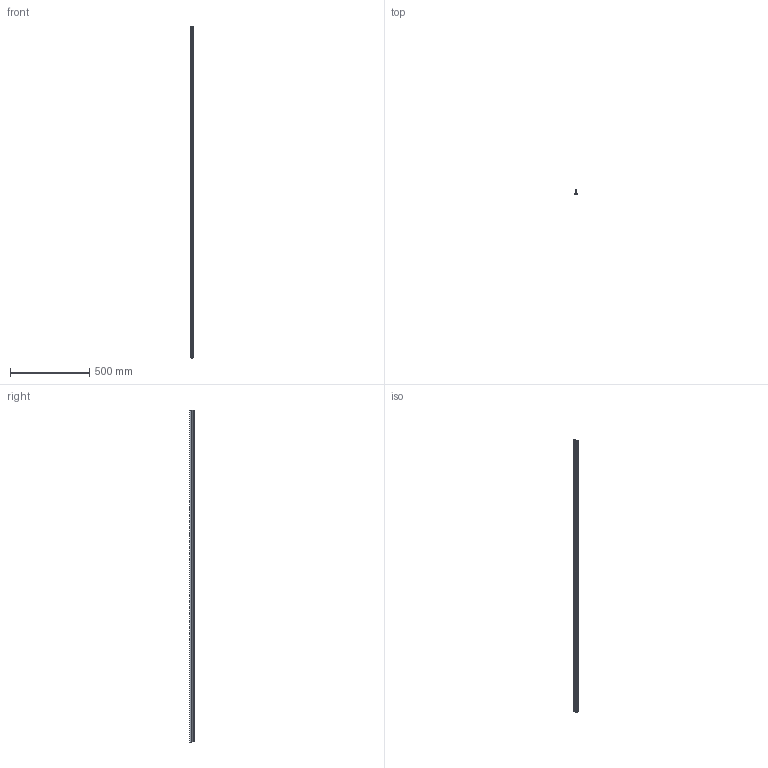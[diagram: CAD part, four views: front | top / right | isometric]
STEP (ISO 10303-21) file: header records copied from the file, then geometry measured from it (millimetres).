
FILE_DESCRIPTION (( 'STEP AP203' ), '1' );
FILE_NAME ('LFS-12-11_-_LFS-12-11 L=2098 - ArtNr 220002 2098.step', '2015-05-04T10:56:23', ( '' ), ( '' ), 'SwSTEP 2.0', 'SolidWorks 2014', '' );
FILE_SCHEMA (( 'CONFIG_CONTROL_DESIGN' ));
Products named in the file (1): LFS-12-11_-_LFS-12-11 L=2098 - ArtNr 220002 2098
Bounding box: 20 x 31 x 2100 mm (x, y, z)
Volume: 634729 mm3; surface area: 283775.4 mm2
Topology: 1 solids, 1 shells, 1432 faces, 3832 edges, 2442 vertices
Faces by surface type: cylinder 687, plane 661, cone 42, torus 42
Full cylindrical faces by diameter (mm): 7 x42, 8 x42, 12 x1
Entity records: 45872 total; most frequent: CARTESIAN_POINT 13752, ORIENTED_EDGE 7156, DIRECTION 5805, EDGE_CURVE 3578, VERTEX_POINT 2357, AXIS2_PLACEMENT_3D 1970, VECTOR 1865, LINE 1865
